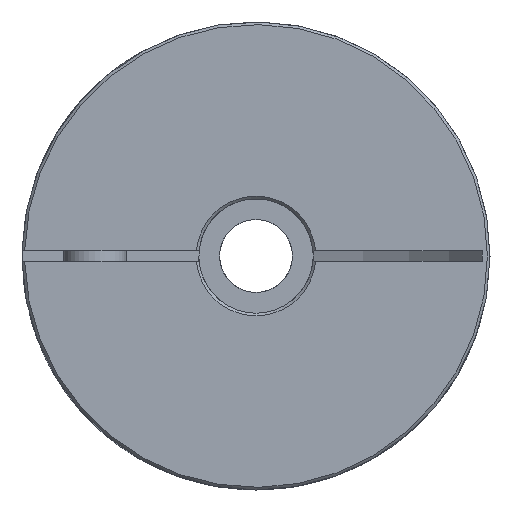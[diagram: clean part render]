
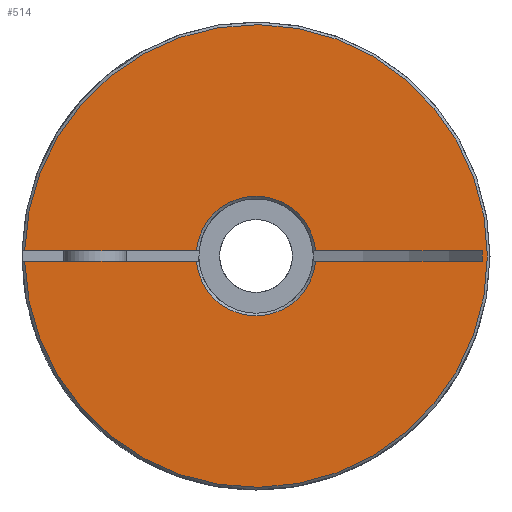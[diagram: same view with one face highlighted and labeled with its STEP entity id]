
A CAD part, left-side view. The second image highlights one B-rep face of the part: STEP entity #514.
In plain terms, the highlighted planar face has unit normal (-1, 0, 0).
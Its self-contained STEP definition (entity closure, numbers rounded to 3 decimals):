
#514 = ADVANCED_FACE( 'NONE', ( #1052 ), #1053, .F. );
#1052 = FACE_OUTER_BOUND( '', #1599, .T. );
#1053 = PLANE( '', #1600 );
#1599 = EDGE_LOOP( '', ( #2680, #2681, #2682, #2683, #2684, #2685, #2686, #2687 ) );
#1600 = AXIS2_PLACEMENT_3D( '', #2688, #2689, #2690 );
#2680 = ORIENTED_EDGE( '', *, *, #3218, .T. );
#2681 = ORIENTED_EDGE( '', *, *, #3220, .T. );
#2682 = ORIENTED_EDGE( '', *, *, #3101, .T. );
#2683 = ORIENTED_EDGE( '', *, *, #3354, .T. );
#2684 = ORIENTED_EDGE( '', *, *, #3319, .F. );
#2685 = ORIENTED_EDGE( '', *, *, #3169, .T. );
#2686 = ORIENTED_EDGE( '', *, *, #3208, .F. );
#2687 = ORIENTED_EDGE( '', *, *, #3127, .T. );
#2688 = CARTESIAN_POINT( '', ( 0., 11., 0. ) );
#2689 = DIRECTION( '', ( 1., 0., 0. ) );
#2690 = DIRECTION( '', ( 0., 1., 0. ) );
#3101 = EDGE_CURVE( 'NONE', #3677, #3678, #3679, .T. );
#3127 = EDGE_CURVE( 'NONE', #3715, #3719, #3721, .T. );
#3169 = EDGE_CURVE( 'NONE', #3787, #3785, #3788, .T. );
#3208 = EDGE_CURVE( 'NONE', #3715, #3785, #3847, .F. );
#3218 = EDGE_CURVE( 'NONE', #3719, #3858, #3860, .T. );
#3220 = EDGE_CURVE( 'NONE', #3858, #3677, #3862, .T. );
#3319 = EDGE_CURVE( 'NONE', #3787, #3991, #3992, .F. );
#3354 = EDGE_CURVE( 'NONE', #3678, #3991, #4033, .F. );
#3677 = VERTEX_POINT( 'NONE', #4565 );
#3678 = VERTEX_POINT( 'NONE', #4566 );
#3679 = LINE( '', #4567, #4568 );
#3715 = VERTEX_POINT( 'NONE', #4617 );
#3719 = VERTEX_POINT( 'NONE', #4624 );
#3721 = LINE( '', #4626, #4627 );
#3785 = VERTEX_POINT( 'NONE', #4707 );
#3787 = VERTEX_POINT( 'NONE', #4712 );
#3788 = CIRCLE( '', #4713, 11.5 );
#3847 = LINE( '', #4793, #4794 );
#3858 = VERTEX_POINT( 'NONE', #4808 );
#3860 = LINE( '', #4813, #4814 );
#3862 = CIRCLE( '', #4816, 11.5 );
#3991 = VERTEX_POINT( 'NONE', #5143 );
#3992 = LINE( '', #5144, #5145 );
#4033 = CIRCLE( '', #5192, 44.5 );
#4565 = CARTESIAN_POINT( '', ( 0., -11.456, 1. ) );
#4566 = CARTESIAN_POINT( '', ( 0., -44.489, 1. ) );
#4567 = CARTESIAN_POINT( '', ( 0., 11., 1. ) );
#4568 = VECTOR( '', #5536, 1000. );
#4617 = CARTESIAN_POINT( '', ( 0., 43.508, -1. ) );
#4624 = CARTESIAN_POINT( '', ( 0., 43.508, 1. ) );
#4626 = CARTESIAN_POINT( '', ( 0., 43.508, -1. ) );
#4627 = VECTOR( '', #5568, 1000. );
#4707 = CARTESIAN_POINT( '', ( 0., 11.456, -1. ) );
#4712 = CARTESIAN_POINT( '', ( 0., -11.456, -1. ) );
#4713 = AXIS2_PLACEMENT_3D( '', #5627, #5628, #5629 );
#4793 = CARTESIAN_POINT( '', ( 0., -9., -1. ) );
#4794 = VECTOR( '', #5675, 1000. );
#4808 = CARTESIAN_POINT( '', ( 0., 11.456, 1. ) );
#4813 = CARTESIAN_POINT( '', ( 0., 11., 1. ) );
#4814 = VECTOR( '', #5685, 1000. );
#4816 = AXIS2_PLACEMENT_3D( '', #5686, #5687, #5688 );
#5143 = CARTESIAN_POINT( '', ( 0., -44.489, -1. ) );
#5144 = CARTESIAN_POINT( '', ( 0., -9., -1. ) );
#5145 = VECTOR( '', #5832, 1000. );
#5192 = AXIS2_PLACEMENT_3D( '', #5893, #5894, #5895 );
#5536 = DIRECTION( '', ( 0., -1., 0. ) );
#5568 = DIRECTION( '', ( 0., 0., 1. ) );
#5627 = CARTESIAN_POINT( '', ( 0., 0., 0. ) );
#5628 = DIRECTION( '', ( 1., 0., 0. ) );
#5629 = DIRECTION( '', ( 0., 0., -1. ) );
#5675 = DIRECTION( '', ( 0., 1., 0. ) );
#5685 = DIRECTION( '', ( 0., -1., 0. ) );
#5686 = CARTESIAN_POINT( '', ( 0., 0., 0. ) );
#5687 = DIRECTION( '', ( 1., 0., 0. ) );
#5688 = DIRECTION( '', ( 0., 0., -1. ) );
#5832 = DIRECTION( '', ( 0., 1., 0. ) );
#5893 = CARTESIAN_POINT( '', ( 0., 0., 0. ) );
#5894 = DIRECTION( '', ( 1., 0., 0. ) );
#5895 = DIRECTION( '', ( 0., 0., -1. ) );
